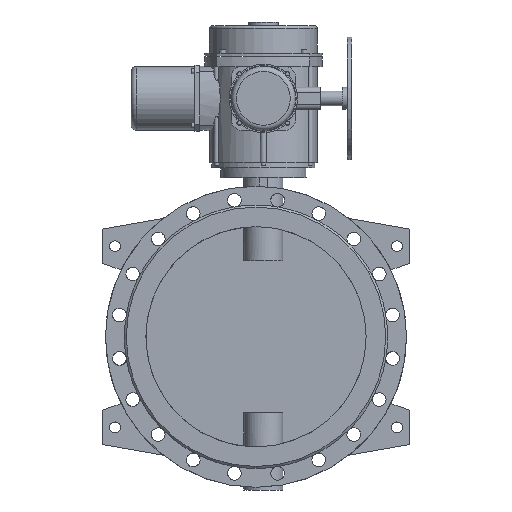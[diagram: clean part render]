
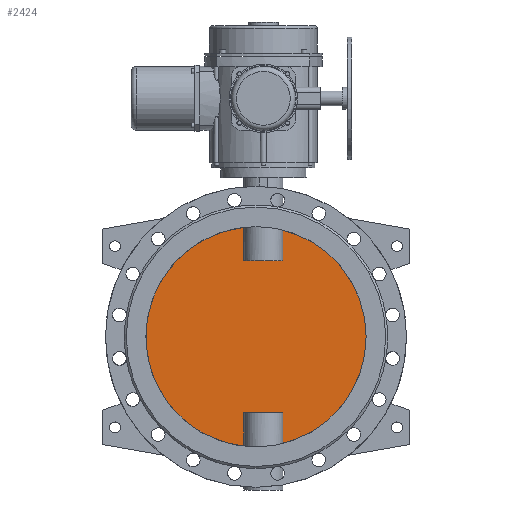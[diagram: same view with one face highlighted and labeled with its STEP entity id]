
A CAD part, front view. The second image highlights one B-rep face of the part: STEP entity #2424.
In plain terms, the highlighted planar face has unit normal (0, -1, 0).
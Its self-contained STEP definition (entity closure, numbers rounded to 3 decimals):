
#2424=ADVANCED_FACE('',(#5853),#5855,.F.);
#5853=FACE_BOUND('',#5854,.T.);
#5854=EDGE_LOOP('',(#8357,#8358,#8359,#8360,#8361,#8362,#8363,#8364));
#5855=PLANE('',#5856);
#5856=AXIS2_PLACEMENT_3D('',#5857,#5858,#5859);
#5857=CARTESIAN_POINT('',(0.,-5.,0.));
#5858=DIRECTION('',(0.,1.,0.));
#5859=DIRECTION('',(1.,0.,0.));
#8357=ORIENTED_EDGE('',*,*,#9618,.T.);
#8358=ORIENTED_EDGE('',*,*,#9631,.T.);
#8359=ORIENTED_EDGE('',*,*,#9632,.T.);
#8360=ORIENTED_EDGE('',*,*,#9633,.T.);
#8361=ORIENTED_EDGE('',*,*,#9620,.T.);
#8362=ORIENTED_EDGE('',*,*,#9634,.T.);
#8363=ORIENTED_EDGE('',*,*,#9635,.T.);
#8364=ORIENTED_EDGE('',*,*,#9636,.T.);
#9618=EDGE_CURVE('',#11148,#11149,#11150,.F.);
#9620=EDGE_CURVE('',#11153,#11151,#11154,.F.);
#9631=EDGE_CURVE('',#11149,#11174,#11175,.T.);
#9632=EDGE_CURVE('',#11174,#11176,#11177,.F.);
#9633=EDGE_CURVE('',#11176,#11153,#11178,.F.);
#9634=EDGE_CURVE('',#11151,#11179,#11180,.F.);
#9635=EDGE_CURVE('',#11179,#11181,#11182,.F.);
#9636=EDGE_CURVE('',#11181,#11148,#11183,.T.);
#11148=VERTEX_POINT('',#18331);
#11149=VERTEX_POINT('',#18332);
#11150=CIRCLE('',#18333,225.);
#11151=VERTEX_POINT('',#18337);
#11153=VERTEX_POINT('',#18423);
#11154=CIRCLE('',#18424,225.);
#11174=VERTEX_POINT('',#18582);
#11175=LINE('',#18583,#18584);
#11176=VERTEX_POINT('',#18586);
#11177=LINE('',#18587,#18588);
#11178=LINE('',#18590,#18591);
#11179=VERTEX_POINT('',#18593);
#11180=LINE('',#18594,#18595);
#11181=VERTEX_POINT('',#18597);
#11182=LINE('',#18598,#18599);
#11183=LINE('',#18601,#18602);
#18331=CARTESIAN_POINT('',(54.686,-5.,-218.253));
#18332=CARTESIAN_POINT('',(54.686,-5.,218.253));
#18333=AXIS2_PLACEMENT_3D('',#18334,#18335,#18336);
#18334=CARTESIAN_POINT('',(0.,-5.,0.));
#18335=DIRECTION('',(0.,1.,0.));
#18336=DIRECTION('',(0.243,0.,0.97));
#18337=CARTESIAN_POINT('',(-24.686,-5.,-223.642));
#18423=CARTESIAN_POINT('',(-24.686,-5.,223.642));
#18424=AXIS2_PLACEMENT_3D('',#18425,#18426,#18427);
#18425=CARTESIAN_POINT('',(0.,-5.,0.));
#18426=DIRECTION('',(0.,1.,0.));
#18427=DIRECTION('',(-0.11,0.,-0.994));
#18582=CARTESIAN_POINT('',(54.686,-5.,155.));
#18583=CARTESIAN_POINT('',(54.686,-5.,218.253));
#18584=VECTOR('',#18585,1.);
#18585=DIRECTION('',(0.,0.,-1.));
#18586=CARTESIAN_POINT('',(-24.686,-5.,155.));
#18587=CARTESIAN_POINT('',(-24.686,-5.,155.));
#18588=VECTOR('',#18589,1.);
#18589=DIRECTION('',(1.,0.,0.));
#18590=CARTESIAN_POINT('',(-24.686,-5.,223.642));
#18591=VECTOR('',#18592,1.);
#18592=DIRECTION('',(0.,0.,-1.));
#18593=CARTESIAN_POINT('',(-24.686,-5.,-155.));
#18594=CARTESIAN_POINT('',(-24.686,-5.,-155.));
#18595=VECTOR('',#18596,1.);
#18596=DIRECTION('',(0.,0.,-1.));
#18597=CARTESIAN_POINT('',(54.686,-5.,-155.));
#18598=CARTESIAN_POINT('',(54.686,-5.,-155.));
#18599=VECTOR('',#18600,1.);
#18600=DIRECTION('',(-1.,0.,0.));
#18601=CARTESIAN_POINT('',(54.686,-5.,-155.));
#18602=VECTOR('',#18603,1.);
#18603=DIRECTION('',(0.,0.,-1.));
